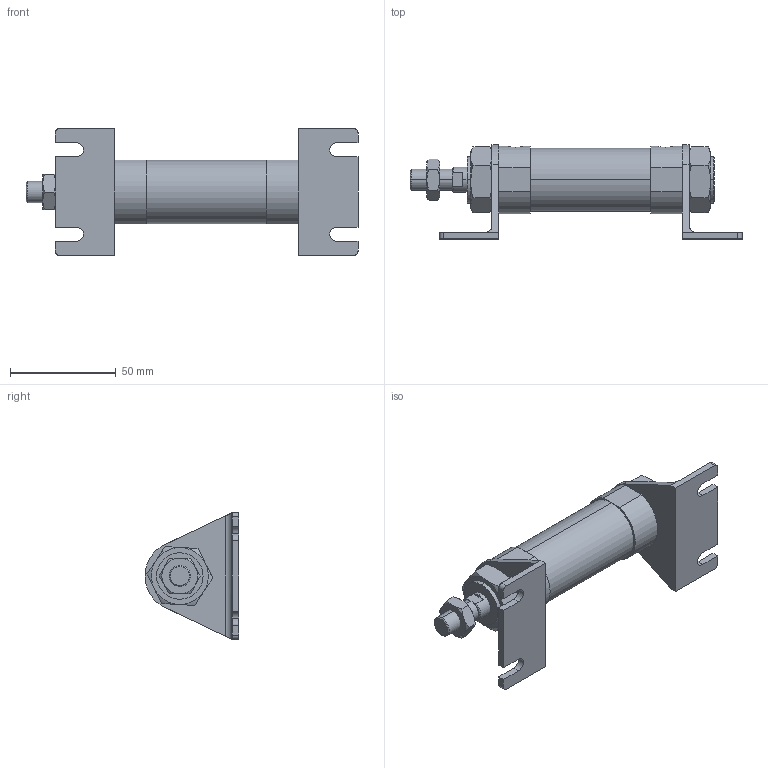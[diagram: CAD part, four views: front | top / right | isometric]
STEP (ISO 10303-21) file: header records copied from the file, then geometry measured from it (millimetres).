
FILE_DESCRIPTION (( 'STEP AP203' ), '1' );
FILE_NAME ('J#2-25-25-L.STEP', '2016-03-10T00:52:51', ( '' ), ( '' ), 'SwSTEP 2.0', 'SolidWorks 2014', '' );
FILE_SCHEMA (( 'CONFIG_CONTROL_DESIGN' ));
Length unit declared in the file: millimetre
Products named in the file (5): J#2-25-L; J#2-25-25-L; J#2-25-25
Assembly tree (6 placements, depth 2):
  J#2-25-25-L
    J#2-25-25
    (unnamed)
    (unnamed)  x2
    J#2-25-L  x2
Bounding box: 157.2 x 44.5 x 60 mm (x, y, z)
Volume: 100175.9 mm3; surface area: 32436.3 mm2
Topology: 6 solids, 6 shells, 171 faces, 402 edges, 246 vertices
Faces by surface type: plane 75, cylinder 50, torus 36, cone 10
Entity records: 4351 total; most frequent: CARTESIAN_POINT 1030, DIRECTION 588, ORIENTED_EDGE 560, EDGE_CURVE 280, AXIS2_PLACEMENT_3D 234, VERTEX_POINT 172, EDGE_LOOP 136, FACE_OUTER_BOUND 123
